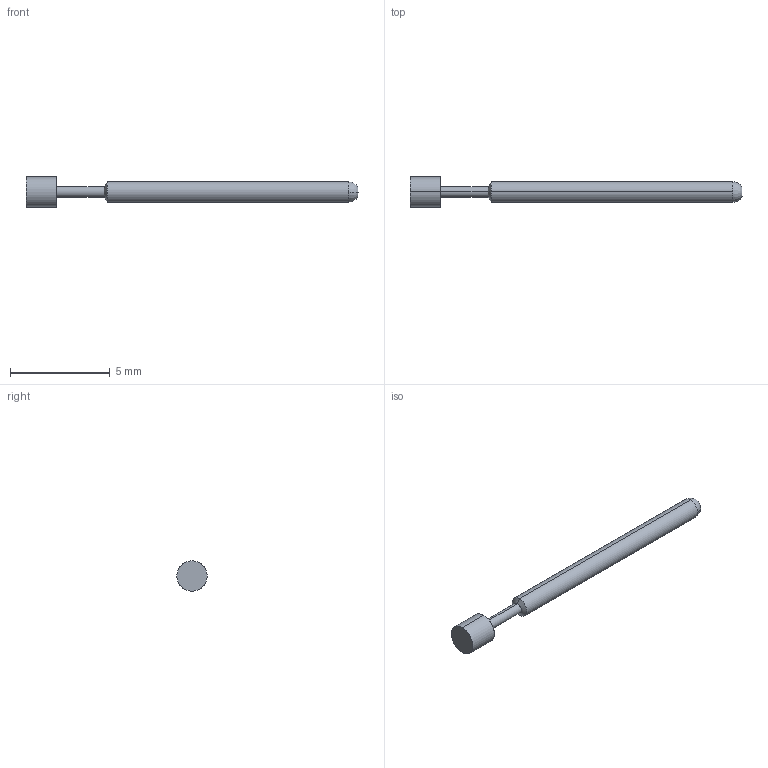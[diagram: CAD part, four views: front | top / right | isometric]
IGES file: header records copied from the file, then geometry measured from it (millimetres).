
Start section: SolidWorks IGES file using analytic representation for surfaces
Global section: file name: Z:\probe solid model mockups\Solidworks models\IGES Files\HPA-1\HPA-1F.IGS; native system: SolidWorks 2006 by SolidWorks Corporation; preprocessor: SolidWorks 2006 by SolidWorks Corporation; author: tsakatani; date: 071220.112152; units: inch
Bounding box: 16.64 x 1.52 x 1.52 mm (x, y, z)
Surface area: 55.7 mm2 (no closed solid volume)
Topology: 0 solids, 0 shells, 13 faces, 108 edges, 108 vertices
Faces by surface type: revolution 10, bspline 3
